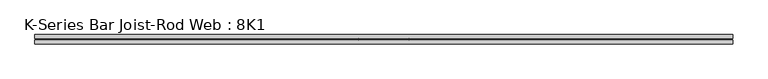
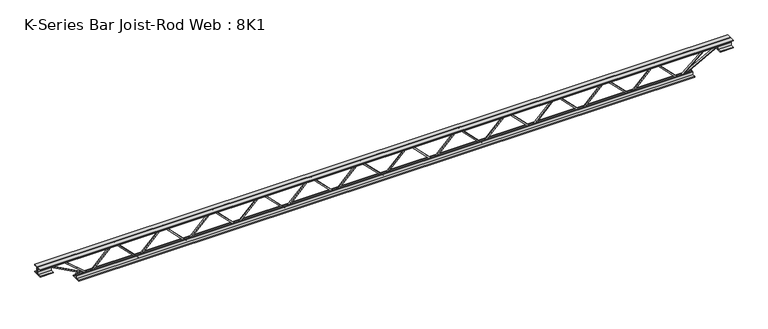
"""IFC4 building model written with IfcOpenShell, lengths in millimetres: beam geometry, K-Series Bar Joist-Rod Web : 8K1."""

from ifc_helpers import new_model, si_unit, frame, origin, place, context, project, spatial, polyline, outline, extrude, source, transform, mapped, element, save


def k_series_bar_joist_rod_web_8k1_62dd3b19(model_context):
    return source(origin(), model_context, "Body", "SweptSolid", [
        extrude(outline(polyline([(-90.4875, 1557.8666667), (-100.0125, 1557.8666667), (-100.0125, 1563.0299622), (90.4875, 1751.4132955), (90.4875, 1753.7867045), (-100.0125, 1942.1700378), (-100.0125, 1947.3333333), (-90.4875, 1947.3333333), (-90.4875, 1946.1466289), (100.0125, 1757.7632955), (100.0125, 1747.4367045), (-90.4875, 1559.0533711), (-90.4875, 1557.8666667)])), frame((0.0, -4.7625, 0.0), z_axis=(0.0, 1.0, 0.0), x_axis=(0.0, 0.0, 1.0)), (0.0, 0.0, 1.0), 9.525),
        extrude(outline(polyline([(-90.4875, 1168.4), (-100.0125, 1168.4), (-100.0125, 1173.5632955), (90.4875, 1361.9466289), (90.4875, 1364.3200378), (-100.0125, 1552.7033711), (-100.0125, 1557.8666667), (-90.4875, 1557.8666667), (-90.4875, 1556.6799622), (100.0125, 1368.2966289), (100.0125, 1357.9700378), (-90.4875, 1169.5867045), (-90.4875, 1168.4)])), frame((0.0, -4.7625, 0.0), z_axis=(0.0, 1.0, 0.0), x_axis=(0.0, 0.0, 1.0)), (0.0, 0.0, 1.0), 9.525),
        extrude(outline(polyline([(-90.4875, 778.9333333), (-100.0125, 778.9333333), (-100.0125, 784.0966289), (90.4875, 972.4799622), (90.4875, 974.8533711), (-100.0125, 1163.2367045), (-100.0125, 1168.4), (-90.4875, 1168.4), (-90.4875, 1167.2132955), (100.0125, 978.8299622), (100.0125, 968.5033711), (-90.4875, 780.1200378), (-90.4875, 778.9333333)])), frame((0.0, -4.7625, 0.0), z_axis=(0.0, 1.0, 0.0), x_axis=(0.0, 0.0, 1.0)), (0.0, 0.0, 1.0), 9.525),
        extrude(outline(polyline([(-90.4875, 389.4666667), (-100.0125, 389.4666667), (-100.0125, 394.6299622), (90.4875, 583.0132955), (90.4875, 585.3867045), (-100.0125, 773.7700378), (-100.0125, 778.9333333), (-90.4875, 778.9333333), (-90.4875, 777.7466289), (100.0125, 589.3632955), (100.0125, 579.0367045), (-90.4875, 390.6533711), (-90.4875, 389.4666667)])), frame((0.0, -4.7625, 0.0), z_axis=(0.0, 1.0, 0.0), x_axis=(0.0, 0.0, 1.0)), (0.0, 0.0, 1.0), 9.525),
        extrude(outline(polyline([(-90.4875, 0.0), (-100.0125, 0.0), (-100.0125, 5.1632955), (90.4875, 193.5466289), (90.4875, 195.9200378), (-100.0125, 384.3033711), (-100.0125, 389.4666667), (-90.4875, 389.4666667), (-90.4875, 388.2799622), (100.0125, 199.8966289), (100.0125, 189.5700378), (-90.4875, 1.1867045), (-90.4875, 0.0)])), frame((0.0, -4.7625, 0.0), z_axis=(0.0, 1.0, 0.0), x_axis=(0.0, 0.0, 1.0)), (0.0, 0.0, 1.0), 9.525),
        extrude(outline(polyline([(-90.4875, -389.4666667), (-100.0125, -389.4666667), (-100.0125, -384.3033711), (90.4875, -195.9200378), (90.4875, -193.5466289), (-100.0125, -5.1632955), (-100.0125, 0.0), (-90.4875, 0.0), (-90.4875, -1.1867045), (100.0125, -189.5700378), (100.0125, -199.8966289), (-90.4875, -388.2799622), (-90.4875, -389.4666667)])), frame((0.0, -4.7625, 0.0), z_axis=(0.0, 1.0, 0.0), x_axis=(0.0, 0.0, 1.0)), (0.0, 0.0, 1.0), 9.525),
        extrude(outline(polyline([(-90.4875, -778.9333333), (-100.0125, -778.9333333), (-100.0125, -773.7700378), (90.4875, -585.3867045), (90.4875, -583.0132955), (-100.0125, -394.6299622), (-100.0125, -389.4666667), (-90.4875, -389.4666667), (-90.4875, -390.6533711), (100.0125, -579.0367045), (100.0125, -589.3632955), (-90.4875, -777.7466289), (-90.4875, -778.9333333)])), frame((0.0, -4.7625, 0.0), z_axis=(0.0, 1.0, 0.0), x_axis=(0.0, 0.0, 1.0)), (0.0, 0.0, 1.0), 9.525),
        extrude(outline(polyline([(-90.4875, -1168.4), (-100.0125, -1168.4), (-100.0125, -1163.2367045), (90.4875, -974.8533711), (90.4875, -972.4799622), (-100.0125, -784.0966289), (-100.0125, -778.9333333), (-90.4875, -778.9333333), (-90.4875, -780.1200378), (100.0125, -968.5033711), (100.0125, -978.8299622), (-90.4875, -1167.2132955), (-90.4875, -1168.4)])), frame((0.0, -4.7625, 0.0), z_axis=(0.0, 1.0, 0.0), x_axis=(0.0, 0.0, 1.0)), (0.0, 0.0, 1.0), 9.525),
        extrude(outline(polyline([(-90.4875, -1557.8666667), (-100.0125, -1557.8666667), (-100.0125, -1552.7033711), (90.4875, -1364.3200378), (90.4875, -1361.9466289), (-100.0125, -1173.5632955), (-100.0125, -1168.4), (-90.4875, -1168.4), (-90.4875, -1169.5867045), (100.0125, -1357.9700378), (100.0125, -1368.2966289), (-90.4875, -1556.6799622), (-90.4875, -1557.8666667)])), frame((0.0, -4.7625, 0.0), z_axis=(0.0, 1.0, 0.0), x_axis=(0.0, 0.0, 1.0)), (0.0, 0.0, 1.0), 9.525),
        extrude(outline(polyline([(-90.4875, -1947.3333333), (-100.0125, -1947.3333333), (-100.0125, -1942.1700378), (90.4875, -1753.7867045), (90.4875, -1751.4132955), (-100.0125, -1563.0299622), (-100.0125, -1557.8666667), (-90.4875, -1557.8666667), (-90.4875, -1559.0533711), (100.0125, -1747.4367045), (100.0125, -1757.7632955), (-90.4875, -1946.1466289), (-90.4875, -1947.3333333)])), frame((0.0, -4.7625, 0.0), z_axis=(0.0, 1.0, 0.0), x_axis=(0.0, 0.0, 1.0)), (0.0, 0.0, 1.0), 9.525),
        extrude(outline(polyline([(-90.4875, 1947.3333333), (-100.0125, 1947.3333333), (-100.0125, 1952.4966289), (90.4875, 2140.8799622), (90.4875, 2143.2533711), (-100.0125, 2331.6367045), (-100.0125, 2336.8), (-90.4875, 2336.8), (-90.4875, 2335.6132955), (100.0125, 2147.2299622), (100.0125, 2136.9033711), (-90.4875, 1948.5200378), (-90.4875, 1947.3333333)])), frame((0.0, -4.7625, 0.0), z_axis=(0.0, 1.0, 0.0), x_axis=(0.0, 0.0, 1.0)), (0.0, 0.0, 1.0), 9.525),
        extrude(outline(polyline([(-90.4875, -2336.8), (-100.0125, -2336.8), (-100.0125, -2331.6367045), (90.4875, -2143.2533711), (90.4875, -2140.8799622), (-100.0125, -1952.4966289), (-100.0125, -1947.3333333), (-90.4875, -1947.3333333), (-90.4875, -1948.5200378), (100.0125, -2136.9033711), (100.0125, -2147.2299622), (-90.4875, -2335.6132955), (-90.4875, -2336.8)])), frame((0.0, -4.7625, 0.0), z_axis=(0.0, 1.0, 0.0), x_axis=(0.0, 0.0, 1.0)), (0.0, 0.0, 1.0), 9.525),
        extrude(outline(polyline([(4.7625, 101.6), (36.5125, 101.6), (36.5125, 95.25), (11.1125, 95.25), (11.1125, 69.85), (4.7625, 69.85), (4.7625, 101.6)])), frame((-2743.2, 0.0, 0.0), z_axis=(1.0, 0.0, 0.0), x_axis=(0.0, 1.0, 0.0)), (0.0, 0.0, 1.0), 5486.4),
        extrude(outline(polyline([(-4.7625, 101.6), (-4.7625, 69.85), (-11.1125, 69.85), (-11.1125, 95.25), (-36.5125, 95.25), (-36.5125, 101.6), (-4.7625, 101.6)])), frame((-2743.2, 0.0, 0.0), z_axis=(1.0, 0.0, 0.0), x_axis=(0.0, 1.0, 0.0)), (0.0, 0.0, 1.0), 5486.4),
        extrude(outline(polyline([(-4.7625, 38.1), (-36.5125, 38.1), (-36.5125, 44.45), (-11.1125, 44.45), (-11.1125, 69.85), (-4.7625, 69.85), (-4.7625, 38.1)])), frame((-2743.2, 0.0, 0.0), z_axis=(1.0, 0.0, 0.0), x_axis=(0.0, 1.0, 0.0)), (0.0, 0.0, 1.0), 101.6),
        extrude(outline(polyline([(36.5125, 38.1), (4.7625, 38.1), (4.7625, 69.85), (11.1125, 69.85), (11.1125, 44.45), (36.5125, 44.45), (36.5125, 38.1)])), frame((-2743.2, 0.0, 0.0), z_axis=(1.0, 0.0, 0.0), x_axis=(0.0, 1.0, 0.0)), (0.0, 0.0, 1.0), 101.6),
        extrude(outline(polyline([(4.7625, 38.1), (4.7625, 69.85), (11.1125, 69.85), (11.1125, 44.45), (36.5125, 44.45), (36.5125, 38.1), (4.7625, 38.1)])), frame((2641.6, 0.0, 0.0), z_axis=(1.0, 0.0, 0.0), x_axis=(0.0, 1.0, 0.0)), (0.0, 0.0, 1.0), 101.6),
        extrude(outline(polyline([(-4.7625, 38.1), (-36.5125, 38.1), (-36.5125, 44.45), (-11.1125, 44.45), (-11.1125, 69.85), (-4.7625, 69.85), (-4.7625, 38.1)])), frame((2641.6, 0.0, 0.0), z_axis=(1.0, 0.0, 0.0), x_axis=(0.0, 1.0, 0.0)), (0.0, 0.0, 1.0), 101.6),
        extrude(outline(polyline([(4.7625, -101.6), (4.7625, -69.85), (11.1125, -69.85), (11.1125, -95.25), (36.5125, -95.25), (36.5125, -101.6), (4.7625, -101.6)])), frame((-2438.4, 0.0, 0.0), z_axis=(1.0, 0.0, 0.0), x_axis=(0.0, 1.0, 0.0)), (0.0, 0.0, 1.0), 4876.8),
        extrude(outline(polyline([(-4.7625, -101.6), (-36.5125, -101.6), (-36.5125, -95.25), (-11.1125, -95.25), (-11.1125, -69.85), (-4.7625, -69.85), (-4.7625, -101.6)])), frame((-2438.4, 0.0, 0.0), z_axis=(1.0, 0.0, 0.0), x_axis=(0.0, 1.0, 0.0)), (0.0, 0.0, 1.0), 4876.8),
        extrude(outline(polyline([(0.0, -9.525), (0.0, 0.0), (346.6425392, 0.0), (346.6425392, -9.525), (0.0, -9.525)])), frame((-2643.8682985, 4.7625, 65.662372), z_axis=(0.47628314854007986, 0.0, 0.8792919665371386), x_axis=(0.8792919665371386, 0.0, -0.47628314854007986)), (0.0, 0.0, 1.0), 9.525),
        extrude(outline(polyline([(0.0, -9.525), (0.0, 0.0), (255.301941, 0.0), (255.301941, -9.525), (0.0, -9.525)])), frame((-2534.6131718, 4.7625, 66.21737), z_axis=(0.6466852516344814, 0.0, 0.7627569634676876), x_axis=(0.7627569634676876, 0.0, -0.6466852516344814)), (0.0, 0.0, 1.0), 9.525),
        extrude(outline(polyline([(0.0, -9.525), (0.0, 0.0), (346.6425392, 0.0), (346.6425392, -9.525), (0.0, -9.525)])), frame((2643.8682985, -4.7625, 65.662372), z_axis=(-0.47628314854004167, 0.0, 0.8792919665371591), x_axis=(-0.8792919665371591, 0.0, -0.47628314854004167)), (0.0, 0.0, 1.0), 9.525),
        extrude(outline(polyline([(0.0, -9.525), (0.0, 0.0), (255.301941, 0.0), (255.301941, -9.525), (0.0, -9.525)])), frame((2534.6131718, -4.7625, 66.21737), z_axis=(-0.6466852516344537, 0.0, 0.7627569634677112), x_axis=(-0.7627569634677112, 0.0, -0.6466852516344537)), (0.0, 0.0, 1.0), 9.525),
    ])


if __name__ == "__main__":
    model = new_model("IFC4")
    model_context = context("Model", 3, world=origin())
    ifc_project = project(units=[si_unit("LENGTHUNIT", "METRE", prefix="MILLI")], contexts=[model_context])
    site = spatial("IfcSite", under=ifc_project)
    building = spatial("IfcBuilding", under=site)
    placement = place(None, origin())
    k_series_bar_joist_rod_web_8k1_shape = k_series_bar_joist_rod_web_8k1_62dd3b19(model_context)
    element("IfcBeam", 1, ObjectType="K-Series Bar Joist-Rod Web : 8K1", at=placement, inside=building, context=model_context, shape_type="MappedRepresentation", body=[
        mapped(k_series_bar_joist_rod_web_8k1_shape, transform((0.0, 0.0, 0.0), x_axis=(1.0, 0.0, 0.0), y_axis=(0.0, 1.0, 0.0), z_axis=(0.0, 0.0, 1.0))),
    ])
    save(model, "model.ifc")
